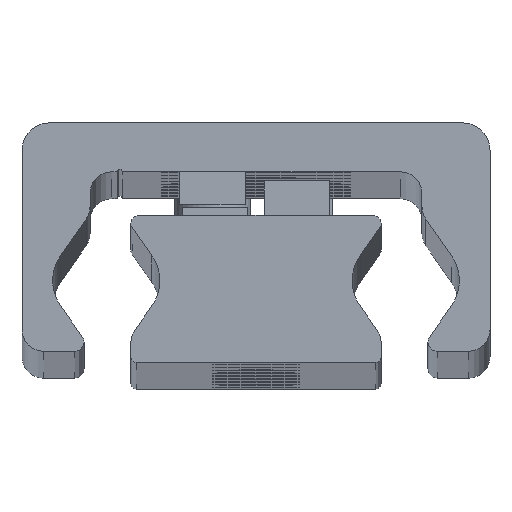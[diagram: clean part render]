
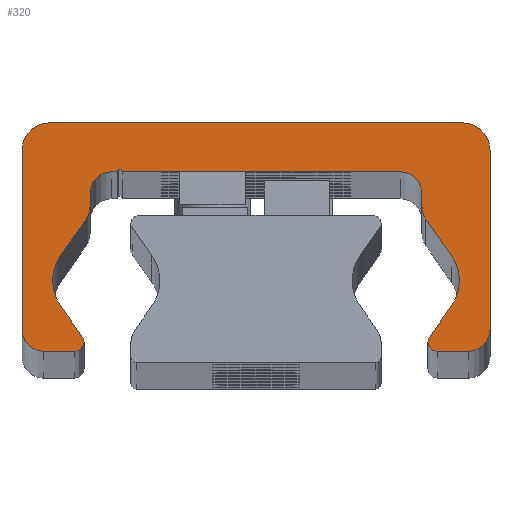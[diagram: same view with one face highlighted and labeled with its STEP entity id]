
A CAD part, top view. The second image highlights one B-rep face of the part: STEP entity #320.
In plain terms, the highlighted planar face has unit normal (0, 0, 1).
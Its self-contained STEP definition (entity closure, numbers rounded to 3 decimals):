
#320=ADVANCED_FACE('',(#910),#911,.T.);
#910=FACE_OUTER_BOUND('',#1501,.T.);
#911=PLANE('',#1502);
#1501=EDGE_LOOP('',(#3482,#3483,#3484,#3485,#3486,#3487,#3488,#3489,#3490,#3491,#3492,#3493,#3494,#3495,#3496,#3497,#3498,#3499,#3500,#3501,#3502,#3503,#3504,#3505,#3506,#3507,#3508,#3509,#3510,#3511));
#1502=AXIS2_PLACEMENT_3D('',#3512,#3513,#3514);
#3482=ORIENTED_EDGE('',*,*,#3899,.F.);
#3483=ORIENTED_EDGE('',*,*,#4182,.F.);
#3484=ORIENTED_EDGE('',*,*,#3885,.F.);
#3485=ORIENTED_EDGE('',*,*,#4181,.F.);
#3486=ORIENTED_EDGE('',*,*,#4177,.F.);
#3487=ORIENTED_EDGE('',*,*,#4174,.F.);
#3488=ORIENTED_EDGE('',*,*,#4171,.F.);
#3489=ORIENTED_EDGE('',*,*,#4168,.F.);
#3490=ORIENTED_EDGE('',*,*,#4165,.F.);
#3491=ORIENTED_EDGE('',*,*,#4162,.F.);
#3492=ORIENTED_EDGE('',*,*,#4159,.F.);
#3493=ORIENTED_EDGE('',*,*,#4156,.F.);
#3494=ORIENTED_EDGE('',*,*,#4153,.F.);
#3495=ORIENTED_EDGE('',*,*,#4150,.F.);
#3496=ORIENTED_EDGE('',*,*,#3891,.F.);
#3497=ORIENTED_EDGE('',*,*,#4148,.F.);
#3498=ORIENTED_EDGE('',*,*,#3893,.F.);
#3499=ORIENTED_EDGE('',*,*,#4147,.F.);
#3500=ORIENTED_EDGE('',*,*,#4143,.F.);
#3501=ORIENTED_EDGE('',*,*,#4140,.F.);
#3502=ORIENTED_EDGE('',*,*,#4137,.F.);
#3503=ORIENTED_EDGE('',*,*,#4134,.F.);
#3504=ORIENTED_EDGE('',*,*,#4131,.F.);
#3505=ORIENTED_EDGE('',*,*,#4128,.F.);
#3506=ORIENTED_EDGE('',*,*,#4125,.F.);
#3507=ORIENTED_EDGE('',*,*,#4122,.F.);
#3508=ORIENTED_EDGE('',*,*,#4119,.F.);
#3509=ORIENTED_EDGE('',*,*,#4116,.F.);
#3510=ORIENTED_EDGE('',*,*,#4113,.F.);
#3511=ORIENTED_EDGE('',*,*,#4110,.F.);
#3512=CARTESIAN_POINT('',(-0.023,14.187,1410.0));
#3513=DIRECTION('',(0.0,0.0,1.0));
#3514=DIRECTION('',(1.0,0.0,0.0));
#3885=EDGE_CURVE('',#4720,#4723,#4724,.T.);
#3891=EDGE_CURVE('',#4733,#4729,#4735,.T.);
#3893=EDGE_CURVE('',#4736,#4739,#4740,.T.);
#3899=EDGE_CURVE('',#4749,#4745,#4751,.T.);
#4110=EDGE_CURVE('',#4745,#5090,#5091,.T.);
#4113=EDGE_CURVE('',#5090,#5095,#5096,.T.);
#4116=EDGE_CURVE('',#5095,#5100,#5101,.T.);
#4119=EDGE_CURVE('',#5100,#5105,#5106,.T.);
#4122=EDGE_CURVE('',#5105,#5110,#5111,.T.);
#4125=EDGE_CURVE('',#5110,#5115,#5116,.T.);
#4128=EDGE_CURVE('',#5115,#5120,#5121,.T.);
#4131=EDGE_CURVE('',#5120,#5125,#5126,.T.);
#4134=EDGE_CURVE('',#5125,#5130,#5131,.T.);
#4137=EDGE_CURVE('',#5130,#5135,#5136,.T.);
#4140=EDGE_CURVE('',#5135,#5140,#5141,.T.);
#4143=EDGE_CURVE('',#5140,#5145,#5146,.T.);
#4147=EDGE_CURVE('',#5145,#4736,#5151,.T.);
#4148=EDGE_CURVE('',#4739,#4733,#5152,.T.);
#4150=EDGE_CURVE('',#4729,#5154,#5155,.T.);
#4153=EDGE_CURVE('',#5154,#5159,#5160,.T.);
#4156=EDGE_CURVE('',#5159,#5164,#5165,.T.);
#4159=EDGE_CURVE('',#5164,#5169,#5170,.T.);
#4162=EDGE_CURVE('',#5169,#5174,#5175,.T.);
#4165=EDGE_CURVE('',#5174,#5179,#5180,.T.);
#4168=EDGE_CURVE('',#5179,#5184,#5185,.T.);
#4171=EDGE_CURVE('',#5184,#5189,#5190,.T.);
#4174=EDGE_CURVE('',#5189,#5194,#5195,.T.);
#4177=EDGE_CURVE('',#5194,#5199,#5200,.T.);
#4181=EDGE_CURVE('',#5199,#4720,#5205,.T.);
#4182=EDGE_CURVE('',#4723,#4749,#5206,.T.);
#4720=VERTEX_POINT('',#5912);
#4723=VERTEX_POINT('',#5916);
#4724=CIRCLE('',#5917,0.85);
#4729=VERTEX_POINT('',#5923);
#4733=VERTEX_POINT('',#5928);
#4735=CIRCLE('',#5931,0.85);
#4736=VERTEX_POINT('',#5932);
#4739=VERTEX_POINT('',#5936);
#4740=CIRCLE('',#5937,4.);
#4745=VERTEX_POINT('',#5943);
#4749=VERTEX_POINT('',#5948);
#4751=CIRCLE('',#5951,4.);
#5090=VERTEX_POINT('',#6388);
#5091=CIRCLE('',#6389,4.);
#5095=VERTEX_POINT('',#6394);
#5096=LINE('',#6395,#6396);
#5100=VERTEX_POINT('',#6402);
#5101=CIRCLE('',#6403,2.);
#5105=VERTEX_POINT('',#6408);
#5106=LINE('',#6409,#6410);
#5110=VERTEX_POINT('',#6416);
#5111=CIRCLE('',#6417,2.0);
#5115=VERTEX_POINT('',#6422);
#5116=LINE('',#6423,#6424);
#5120=VERTEX_POINT('',#6430);
#5121=CIRCLE('',#6431,0.25);
#5125=VERTEX_POINT('',#6436);
#5126=LINE('',#6437,#6438);
#5130=VERTEX_POINT('',#6444);
#5131=CIRCLE('',#6445,2.0);
#5135=VERTEX_POINT('',#6450);
#5136=LINE('',#6451,#6452);
#5140=VERTEX_POINT('',#6458);
#5141=CIRCLE('',#6459,2.0);
#5145=VERTEX_POINT('',#6464);
#5146=LINE('',#6465,#6466);
#5151=CIRCLE('',#6473,4.);
#5152=LINE('',#6474,#6475);
#5154=VERTEX_POINT('',#6478);
#5155=CIRCLE('',#6479,0.85);
#5159=VERTEX_POINT('',#6484);
#5160=LINE('',#6485,#6486);
#5164=VERTEX_POINT('',#6492);
#5165=CIRCLE('',#6493,2.);
#5169=VERTEX_POINT('',#6498);
#5170=LINE('',#6499,#6500);
#5174=VERTEX_POINT('',#6506);
#5175=CIRCLE('',#6507,2.5);
#5179=VERTEX_POINT('',#6512);
#5180=LINE('',#6513,#6514);
#5184=VERTEX_POINT('',#6520);
#5185=CIRCLE('',#6521,2.5);
#5189=VERTEX_POINT('',#6526);
#5190=LINE('',#6527,#6528);
#5194=VERTEX_POINT('',#6534);
#5195=CIRCLE('',#6535,2.);
#5199=VERTEX_POINT('',#6540);
#5200=LINE('',#6541,#6542);
#5205=CIRCLE('',#6549,0.85);
#5206=LINE('',#6550,#6551);
#5912=CARTESIAN_POINT('',(15.8,1.859,1410.0));
#5916=CARTESIAN_POINT('',(15.922,2.298,1410.0));
#5917=AXIS2_PLACEMENT_3D('',#7227,#7228,#7229);
#5923=CARTESIAN_POINT('',(-15.8,1.859,1410.0));
#5928=CARTESIAN_POINT('',(-15.922,2.298,1410.0));
#5931=AXIS2_PLACEMENT_3D('',#7239,#7240,#7241);
#5932=CARTESIAN_POINT('',(-18.688,7.509,1410.0));
#5936=CARTESIAN_POINT('',(-17.964,5.214,1410.0));
#5937=AXIS2_PLACEMENT_3D('',#7243,#7244,#7245);
#5943=CARTESIAN_POINT('',(18.688,7.509,1410.0));
#5948=CARTESIAN_POINT('',(17.964,5.214,1410.0));
#5951=AXIS2_PLACEMENT_3D('',#7255,#7256,#7257);
#6388=CARTESIAN_POINT('',(17.964,9.803,1410.0));
#6389=AXIS2_PLACEMENT_3D('',#7692,#7693,#7694);
#6394=CARTESIAN_POINT('',(15.612,13.163,1410.0));
#6395=CARTESIAN_POINT('',(15.612,13.163,1410.0));
#6396=VECTOR('',#7699,1.0);
#6402=CARTESIAN_POINT('',(15.25,14.31,1410.0));
#6403=AXIS2_PLACEMENT_3D('',#7702,#7703,#7704);
#6408=CARTESIAN_POINT('',(15.25,15.509,1410.0));
#6409=CARTESIAN_POINT('',(15.25,15.509,1410.0));
#6410=VECTOR('',#7709,1.0);
#6416=CARTESIAN_POINT('',(13.25,17.509,1410.0));
#6417=AXIS2_PLACEMENT_3D('',#7712,#7713,#7714);
#6422=CARTESIAN_POINT('',(-12.25,17.509,1410.0));
#6423=CARTESIAN_POINT('',(-12.25,17.509,1410.0));
#6424=VECTOR('',#7719,1.0);
#6430=CARTESIAN_POINT('',(-12.75,17.509,1410.0));
#6431=AXIS2_PLACEMENT_3D('',#7722,#7723,#7724);
#6436=CARTESIAN_POINT('',(-13.25,17.509,1410.0));
#6437=CARTESIAN_POINT('',(-13.25,17.509,1410.0));
#6438=VECTOR('',#7729,1.0);
#6444=CARTESIAN_POINT('',(-15.25,15.509,1410.0));
#6445=AXIS2_PLACEMENT_3D('',#7732,#7733,#7734);
#6450=CARTESIAN_POINT('',(-15.25,14.31,1410.0));
#6451=CARTESIAN_POINT('',(-15.25,14.31,1410.0));
#6452=VECTOR('',#7739,1.0);
#6458=CARTESIAN_POINT('',(-15.612,13.163,1410.0));
#6459=AXIS2_PLACEMENT_3D('',#7742,#7743,#7744);
#6464=CARTESIAN_POINT('',(-17.964,9.803,1410.0));
#6465=CARTESIAN_POINT('',(-17.964,9.803,1410.0));
#6466=VECTOR('',#7749,1.0);
#6473=AXIS2_PLACEMENT_3D('',#7755,#7756,#7757);
#6474=CARTESIAN_POINT('',(-15.922,2.298,1410.0));
#6475=VECTOR('',#7758,1.0);
#6478=CARTESIAN_POINT('',(-16.65,1.009,1410.0));
#6479=AXIS2_PLACEMENT_3D('',#7760,#7761,#7762);
#6484=CARTESIAN_POINT('',(-19.5,1.009,1410.0));
#6485=CARTESIAN_POINT('',(-19.5,1.009,1410.0));
#6486=VECTOR('',#7767,1.0);
#6492=CARTESIAN_POINT('',(-21.5,3.009,1410.0));
#6493=AXIS2_PLACEMENT_3D('',#7770,#7771,#7772);
#6498=CARTESIAN_POINT('',(-21.5,19.509,1410.0));
#6499=CARTESIAN_POINT('',(-21.5,19.509,1410.0));
#6500=VECTOR('',#7777,1.0);
#6506=CARTESIAN_POINT('',(-19.0,22.009,1410.0));
#6507=AXIS2_PLACEMENT_3D('',#7780,#7781,#7782);
#6512=CARTESIAN_POINT('',(19.0,22.009,1410.0));
#6513=CARTESIAN_POINT('',(19.0,22.009,1410.0));
#6514=VECTOR('',#7787,1.0);
#6520=CARTESIAN_POINT('',(21.5,19.509,1410.0));
#6521=AXIS2_PLACEMENT_3D('',#7790,#7791,#7792);
#6526=CARTESIAN_POINT('',(21.5,3.009,1410.0));
#6527=CARTESIAN_POINT('',(21.5,3.009,1410.0));
#6528=VECTOR('',#7797,1.0);
#6534=CARTESIAN_POINT('',(19.5,1.009,1410.0));
#6535=AXIS2_PLACEMENT_3D('',#7800,#7801,#7802);
#6540=CARTESIAN_POINT('',(16.65,1.009,1410.0));
#6541=CARTESIAN_POINT('',(16.65,1.009,1410.0));
#6542=VECTOR('',#7807,1.0);
#6549=AXIS2_PLACEMENT_3D('',#7813,#7814,#7815);
#6550=CARTESIAN_POINT('',(17.964,5.214,1410.0));
#6551=VECTOR('',#7816,1.0);
#7227=CARTESIAN_POINT('',(16.65,1.859,1410.0));
#7228=DIRECTION('',(0.0,0.0,-1.0));
#7229=DIRECTION('',(1.0,0.0,0.0));
#7239=CARTESIAN_POINT('',(-16.65,1.859,1410.0));
#7240=DIRECTION('',(0.0,0.0,-1.0));
#7241=DIRECTION('',(1.0,0.0,0.0));
#7243=CARTESIAN_POINT('',(-14.688,7.509,1410.0));
#7244=DIRECTION('',(0.0,0.0,1.0));
#7245=DIRECTION('',(1.0,0.0,0.0));
#7255=CARTESIAN_POINT('',(14.688,7.509,1410.0));
#7256=DIRECTION('',(0.0,0.0,1.0));
#7257=DIRECTION('',(1.0,0.0,0.0));
#7692=CARTESIAN_POINT('',(14.688,7.509,1410.0));
#7693=DIRECTION('',(0.0,0.0,1.0));
#7694=DIRECTION('',(1.0,0.0,0.0));
#7699=DIRECTION('',(-0.574,0.819,0.0));
#7702=CARTESIAN_POINT('',(17.25,14.31,1410.0));
#7703=DIRECTION('',(0.0,0.0,-1.0));
#7704=DIRECTION('',(1.0,0.0,0.0));
#7709=DIRECTION('',(0.0,1.0,0.0));
#7712=CARTESIAN_POINT('',(13.25,15.509,1410.0));
#7713=DIRECTION('',(0.0,0.0,1.0));
#7714=DIRECTION('',(1.0,0.0,0.0));
#7719=DIRECTION('',(-1.0,-0.0,-0.0));
#7722=CARTESIAN_POINT('',(-12.5,17.509,1410.0));
#7723=DIRECTION('',(0.0,0.0,1.0));
#7724=DIRECTION('',(1.0,0.0,0.0));
#7729=DIRECTION('',(-1.0,-0.0,-0.0));
#7732=CARTESIAN_POINT('',(-13.25,15.509,1410.0));
#7733=DIRECTION('',(0.0,0.0,1.0));
#7734=DIRECTION('',(1.0,0.0,0.0));
#7739=DIRECTION('',(-0.0,-1.0,-0.0));
#7742=CARTESIAN_POINT('',(-17.25,14.31,1410.0));
#7743=DIRECTION('',(0.0,0.0,-1.0));
#7744=DIRECTION('',(1.0,0.0,0.0));
#7749=DIRECTION('',(-0.574,-0.819,-0.0));
#7755=CARTESIAN_POINT('',(-14.688,7.509,1410.0));
#7756=DIRECTION('',(0.0,0.0,1.0));
#7757=DIRECTION('',(1.0,0.0,0.0));
#7758=DIRECTION('',(0.574,-0.819,0.0));
#7760=CARTESIAN_POINT('',(-16.65,1.859,1410.0));
#7761=DIRECTION('',(0.0,0.0,-1.0));
#7762=DIRECTION('',(1.0,0.0,0.0));
#7767=DIRECTION('',(-1.0,-0.0,-0.0));
#7770=CARTESIAN_POINT('',(-19.5,3.009,1410.0));
#7771=DIRECTION('',(0.0,0.0,-1.0));
#7772=DIRECTION('',(1.0,0.0,0.0));
#7777=DIRECTION('',(0.0,1.0,0.0));
#7780=CARTESIAN_POINT('',(-19.0,19.509,1410.0));
#7781=DIRECTION('',(0.0,0.0,-1.0));
#7782=DIRECTION('',(1.0,0.0,0.0));
#7787=DIRECTION('',(1.0,0.0,0.0));
#7790=CARTESIAN_POINT('',(19.0,19.509,1410.0));
#7791=DIRECTION('',(0.0,0.0,-1.0));
#7792=DIRECTION('',(1.0,0.0,0.0));
#7797=DIRECTION('',(-0.0,-1.0,-0.0));
#7800=CARTESIAN_POINT('',(19.5,3.009,1410.0));
#7801=DIRECTION('',(0.0,0.0,-1.0));
#7802=DIRECTION('',(1.0,0.0,0.0));
#7807=DIRECTION('',(-1.0,-0.0,-0.0));
#7813=CARTESIAN_POINT('',(16.65,1.859,1410.0));
#7814=DIRECTION('',(0.0,0.0,-1.0));
#7815=DIRECTION('',(1.0,0.0,0.0));
#7816=DIRECTION('',(0.574,0.819,0.0));
